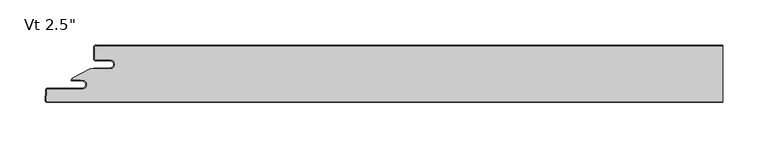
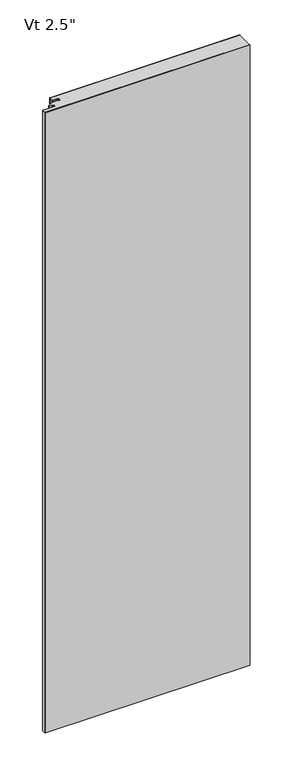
"""IFC4 building model written with IfcOpenShell, lengths in millimetres: plate geometry."""

from ifc_helpers import new_model, si_unit, point, frame_2d, origin, origin_with_axes, place, context, project, spatial, polyline, circle_curve, trimmed, segment, composite_curve, outline, extrude, source, transform, mapped, element, save


def plate_dc01b275(model_context):
    return source(origin(), model_context, "Body", "SweptSolid", [
        extrude(outline(composite_curve([segment(polyline([(-329.8499998, -16.4625), (-345.7249998, -16.4625)]), True, "CONTINUOUS"), segment(trimmed(circle_curve(frame_2d((-345.7249998, -15.08125)), 1.38125), [point((-345.7249998, -16.4625))], [point((-347.1062498, -15.08125))], False, "CARTESIAN"), True, "CONTINUOUS"), segment(polyline([(-347.1062498, -15.08125), (-347.1062498, -2.38125)]), True, "CONTINUOUS"), segment(trimmed(circle_curve(frame_2d((-345.7249998, -2.38125)), 1.38125), [point((-347.1062498, -2.38125))], [point((-345.7249998, -1.0))], False, "CARTESIAN"), True, "CONTINUOUS"), segment(polyline([(-345.7249998, -1.0), (348.8999998, -1.0), (348.8999998, -62.5), (-399.5862034, -62.5)]), True, "CONTINUOUS"), segment(trimmed(circle_curve(frame_2d((-399.5862034, -61.11875)), 1.38125), [point((-399.5862034, -62.5))], [point((-400.9655604, -61.046461))], False, "CARTESIAN"), True, "CONTINUOUS"), segment(polyline([(-400.9655604, -61.046461), (-400.383179, -49.933961)]), True, "CONTINUOUS"), segment(trimmed(circle_curve(frame_2d((-399.0038219, -50.00625)), 1.38125), [point((-400.383179, -49.933961))], [point((-399.0038219, -48.625))], False, "CARTESIAN"), True, "CONTINUOUS"), segment(polyline([(-399.0038219, -48.625), (-360.8205173, -48.625)]), True, "CONTINUOUS"), segment(trimmed(circle_curve(frame_2d((-360.8205173, -43.65625)), 4.96875), [point((-360.8205173, -48.625))], [point((-360.8205173, -38.6875))], True, "CARTESIAN"), True, "CONTINUOUS"), segment(polyline([(-360.8205173, -38.6875), (-362.4080173, -38.89375), (-362.4080173, -38.1), (-371.9187498, -38.1), (-371.9187498, -36.5326309), (-352.0323421, -26.4), (-329.8499998, -26.4)]), True, "CONTINUOUS"), segment(trimmed(circle_curve(frame_2d((-329.8499998, -21.43125)), 4.96875), [point((-329.8499998, -26.4))], [point((-329.8499998, -16.4625))], True, "CARTESIAN"), True, "CONTINUOUS")], self_intersect=False)), origin_with_axes(), (0.0, 0.0, 1.0), 2400.0),
        extrude(outline(composite_curve([segment(polyline([(-348.1062498, -25.4), (-329.8499998, -25.4)]), True, "CONTINUOUS"), segment(trimmed(circle_curve(frame_2d((-329.8499998, -21.43125)), 3.96875), [point((-329.8499998, -25.4))], [point((-329.8499998, -17.4625))], True, "CARTESIAN"), True, "CONTINUOUS"), segment(polyline([(-329.8499998, -17.4625), (-345.7249998, -17.4625)]), True, "CONTINUOUS"), segment(trimmed(circle_curve(frame_2d((-345.7249998, -15.08125)), 2.38125), [point((-345.7249998, -17.4625))], [point((-348.1062498, -15.08125))], False, "CARTESIAN"), True, "CONTINUOUS"), segment(polyline([(-348.1062498, -15.08125), (-348.1062498, -2.38125)]), True, "CONTINUOUS"), segment(trimmed(circle_curve(frame_2d((-345.7249998, -2.38125)), 2.38125), [point((-348.1062498, -2.38125))], [point((-345.7249998, 0.0))], False, "CARTESIAN"), True, "CONTINUOUS"), segment(polyline([(-345.7249998, 0.0), (348.8999998, 0.0), (348.8999998, -1.0), (-345.7249998, -1.0)]), True, "CONTINUOUS"), segment(trimmed(circle_curve(frame_2d((-345.7249998, -2.38125)), 1.38125), [point((-345.7249998, -1.0))], [point((-347.1062498, -2.38125))], True, "CARTESIAN"), True, "CONTINUOUS"), segment(polyline([(-347.1062498, -2.38125), (-347.1062498, -15.08125)]), True, "CONTINUOUS"), segment(trimmed(circle_curve(frame_2d((-345.7249998, -15.08125)), 1.38125), [point((-347.1062498, -15.08125))], [point((-345.7249998, -16.4625))], True, "CARTESIAN"), True, "CONTINUOUS"), segment(polyline([(-345.7249998, -16.4625), (-329.8499998, -16.4625)]), True, "CONTINUOUS"), segment(trimmed(circle_curve(frame_2d((-329.8499998, -21.43125)), 4.96875), [point((-329.8499998, -16.4625))], [point((-329.8499998, -26.4))], False, "CARTESIAN"), True, "CONTINUOUS"), segment(polyline([(-329.8499998, -26.4), (-348.1062498, -26.4), (-348.1062498, -25.4)]), True, "CONTINUOUS")], self_intersect=False)), origin_with_axes(), (0.0, 0.0, 1.0), 2400.0),
        extrude(outline(composite_curve([segment(polyline([(-372.1314548, -38.1), (-362.4080173, -38.1), (-362.4080173, -38.89375), (-360.8205173, -38.6875)]), True, "CONTINUOUS"), segment(trimmed(circle_curve(frame_2d((-360.8205173, -43.65625)), 4.96875), [point((-360.8205173, -38.6875))], [point((-360.8205173, -48.625))], False, "CARTESIAN"), True, "CONTINUOUS"), segment(polyline([(-360.8205173, -48.625), (-399.0038219, -48.625)]), True, "CONTINUOUS"), segment(trimmed(circle_curve(frame_2d((-399.0038219, -50.00625)), 1.38125), [point((-399.0038219, -48.625))], [point((-400.383179, -49.933961))], True, "CARTESIAN"), True, "CONTINUOUS"), segment(polyline([(-400.383179, -49.933961), (-400.9655604, -61.046461)]), True, "CONTINUOUS"), segment(trimmed(circle_curve(frame_2d((-399.5862034, -61.11875)), 1.38125), [point((-400.9655604, -61.046461))], [point((-399.5862034, -62.5))], True, "CARTESIAN"), True, "CONTINUOUS"), segment(polyline([(-399.5862034, -62.5), (348.8999998, -62.5), (348.8999998, -63.5), (-399.5862034, -63.5)]), True, "CONTINUOUS"), segment(trimmed(circle_curve(frame_2d((-399.5862034, -61.11875)), 2.38125), [point((-399.5862034, -63.5))], [point((-401.9641899, -60.994125))], False, "CARTESIAN"), True, "CONTINUOUS"), segment(polyline([(-401.9641899, -60.994125), (-401.3818085, -49.881625)]), True, "CONTINUOUS"), segment(trimmed(circle_curve(frame_2d((-399.0038219, -50.00625)), 2.38125), [point((-401.3818085, -49.881625))], [point((-399.0038219, -47.625))], False, "CARTESIAN"), True, "CONTINUOUS"), segment(polyline([(-399.0038219, -47.625), (-360.8205173, -47.625)]), True, "CONTINUOUS"), segment(trimmed(circle_curve(frame_2d((-360.8205173, -43.65625)), 3.96875), [point((-360.8205173, -47.625))], [point((-360.8205173, -39.6875))], True, "CARTESIAN"), True, "CONTINUOUS"), segment(polyline([(-360.8205173, -39.6875), (-372.1314548, -39.6875)]), True, "CONTINUOUS"), segment(trimmed(circle_curve(frame_2d((-372.1314548, -38.89375)), 0.79375), [point((-372.1314548, -39.6875))], [point((-372.1314548, -38.1))], False, "CARTESIAN"), True, "CONTINUOUS")], self_intersect=False)), origin_with_axes(), (0.0, 0.0, 1.0), 2400.0),
    ])


if __name__ == "__main__":
    model = new_model("IFC4")
    model_context = context("Model", 3, world=origin())
    ifc_project = project(units=[si_unit("LENGTHUNIT", "METRE", prefix="MILLI")], contexts=[model_context])
    site = spatial("IfcSite", under=ifc_project)
    building = spatial("IfcBuilding", under=site)
    placement = place(None, origin())
    plate_shape = plate_dc01b275(model_context)
    element("IfcPlate", 1, ObjectType="KIP-30-DWTR-R19-CP-Vt-F : Vt 2.5\"", at=placement, inside=building, context=model_context, shape_type="MappedRepresentation", body=[
        mapped(plate_shape, transform((0.0, 0.0, 0.0), x_axis=(1.0, 0.0, 0.0), y_axis=(0.0, 1.0, 0.0), z_axis=(0.0, 0.0, 1.0))),
    ])
    save(model, "model.ifc")
